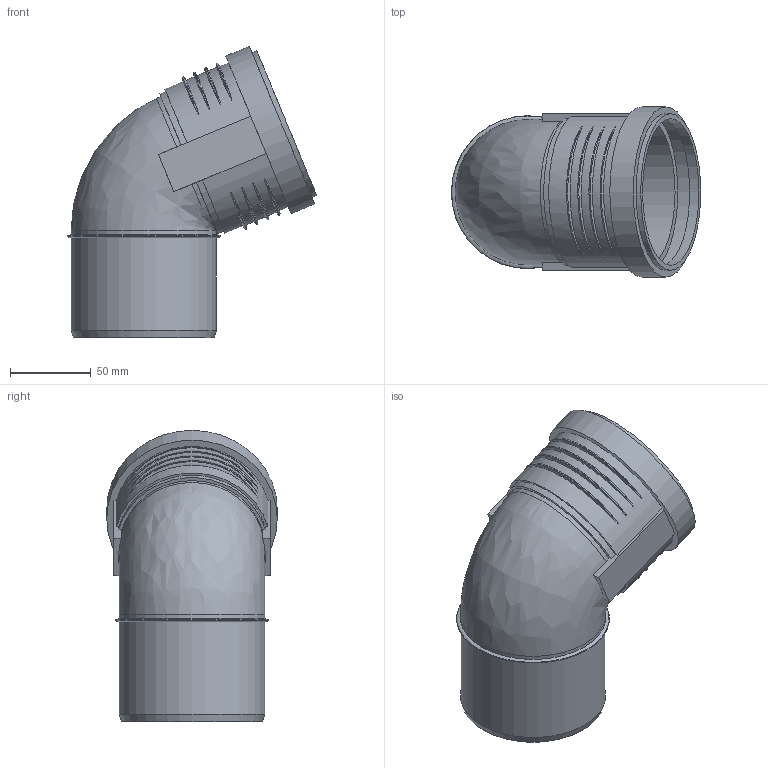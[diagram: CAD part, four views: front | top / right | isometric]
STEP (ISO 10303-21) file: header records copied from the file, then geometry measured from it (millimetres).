
FILE_DESCRIPTION(/* description */ (''),/* implementation_level */ '2;1');
FILE_NAME(/* name */ 'Z:\Geberit\Export\NewStep\390423.stp',/* time_stamp */ '2014-04-02T08:12:45+02:00',/* author */ ('ML'),/* organization */ (''),/* preprocessor_version */ 'ST-DEVELOPER v15.2',/* originating_system */ 'Autodesk Inventor 2014',/* authorisation */ '');
FILE_SCHEMA (('AUTOMOTIVE_DESIGN { 1 0 10303 214 3 1 1 }'));
Length unit declared in the file: millimetre
Products named in the file (3): 861314; 861403; 390423
Bounding box: 154.81 x 105.8 x 180.77 mm (x, y, z)
Volume: 181710.6 mm3; surface area: 121670.7 mm2
Topology: 2 solids, 2 shells, 68 faces, 162 edges, 109 vertices
Faces by surface type: torus 28, plane 19, cylinder 18, cone 2, bspline 1
Full cylindrical faces by diameter (mm): 84 x2, 84.2 x1, 90.2 x4, 91.2 x2, 97.2 x1, 99.8 x1, 105.8 x1
Entity records: 2726 total; most frequent: CARTESIAN_POINT 1150, DIRECTION 290, ORIENTED_EDGE 278, EDGE_CURVE 139, AXIS2_PLACEMENT_3D 127, VERTEX_POINT 106, EDGE_LOOP 103, STYLED_ITEM 70
